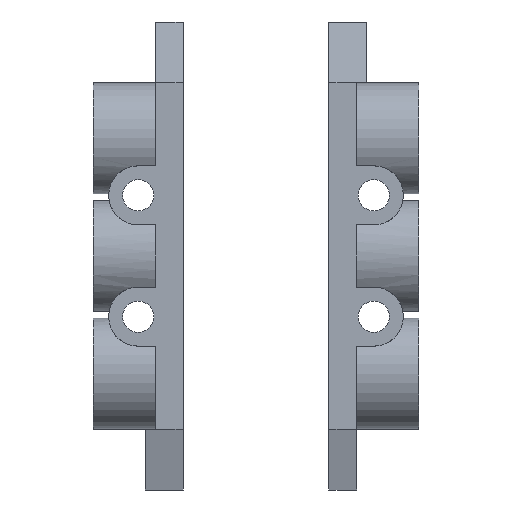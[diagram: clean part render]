
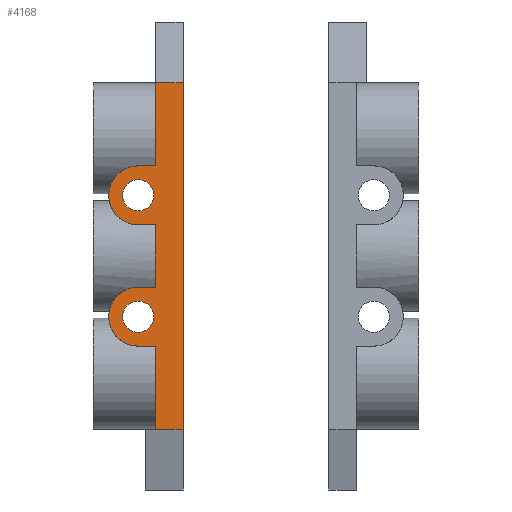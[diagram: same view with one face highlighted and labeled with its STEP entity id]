
A CAD part, front view. The second image highlights one B-rep face of the part: STEP entity #4168.
In plain terms, the highlighted planar face has unit normal (0, -1, 0).
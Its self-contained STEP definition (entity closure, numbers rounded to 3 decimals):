
#47=DIRECTION('',(1.,0.,0.));
#48=VECTOR('',#47,18.);
#49=CARTESIAN_POINT('',(-9.,-23.,0.));
#50=LINE('',#49,#48);
#93=DIRECTION('',(1.,0.,0.));
#94=VECTOR('',#93,24.);
#95=CARTESIAN_POINT('',(26.,-23.,0.));
#96=LINE('',#95,#94);
#140=DIRECTION('',(1.,0.,0.));
#141=VECTOR('',#140,24.);
#142=CARTESIAN_POINT('',(-50.,-23.,0.));
#143=LINE('',#142,#141);
#662=DIRECTION('',(1.,0.,0.));
#663=VECTOR('',#662,100.);
#664=CARTESIAN_POINT('',(-50.,-23.,-8.));
#665=LINE('',#664,#663);
#858=DIRECTION('',(0.,0.,1.));
#859=VECTOR('',#858,5.);
#860=CARTESIAN_POINT('',(9.,-23.,0.));
#861=LINE('',#860,#859);
#862=CARTESIAN_POINT('',(17.5,-23.,5.));
#863=DIRECTION('',(0.,1.,0.));
#864=DIRECTION('',(-1.,0.,0.));
#865=AXIS2_PLACEMENT_3D('',#862,#863,#864);
#867=DIRECTION('',(0.,0.,-1.));
#868=VECTOR('',#867,5.);
#869=CARTESIAN_POINT('',(26.,-23.,5.));
#870=LINE('',#869,#868);
#871=DIRECTION('',(0.,0.,-1.));
#872=VECTOR('',#871,8.);
#873=CARTESIAN_POINT('',(-50.,-23.,0.));
#874=LINE('',#873,#872);
#875=DIRECTION('',(0.,0.,1.));
#876=VECTOR('',#875,5.);
#877=CARTESIAN_POINT('',(-26.,-23.,0.));
#878=LINE('',#877,#876);
#879=CARTESIAN_POINT('',(-17.5,-23.,5.));
#880=DIRECTION('',(0.,1.,0.));
#881=DIRECTION('',(-1.,0.,0.));
#882=AXIS2_PLACEMENT_3D('',#879,#880,#881);
#884=DIRECTION('',(0.,0.,-1.));
#885=VECTOR('',#884,5.);
#886=CARTESIAN_POINT('',(-9.,-23.,5.));
#887=LINE('',#886,#885);
#888=CARTESIAN_POINT('',(17.5,-23.,5.));
#889=DIRECTION('',(0.,-1.,0.));
#890=DIRECTION('',(1.,0.,0.));
#891=AXIS2_PLACEMENT_3D('',#888,#889,#890);
#893=CARTESIAN_POINT('',(17.5,-23.,5.));
#894=DIRECTION('',(0.,-1.,0.));
#895=DIRECTION('',(-1.,0.,0.));
#896=AXIS2_PLACEMENT_3D('',#893,#894,#895);
#898=CARTESIAN_POINT('',(-17.5,-23.,5.));
#899=DIRECTION('',(0.,-1.,0.));
#900=DIRECTION('',(1.,0.,0.));
#901=AXIS2_PLACEMENT_3D('',#898,#899,#900);
#903=CARTESIAN_POINT('',(-17.5,-23.,5.));
#904=DIRECTION('',(0.,-1.,0.));
#905=DIRECTION('',(-1.,0.,0.));
#906=AXIS2_PLACEMENT_3D('',#903,#904,#905);
#1454=DIRECTION('',(0.,0.,-1.));
#1455=VECTOR('',#1454,8.);
#1456=CARTESIAN_POINT('',(50.,-23.,0.));
#1457=LINE('',#1456,#1455);
#2728=CARTESIAN_POINT('',(50.,-23.,0.));
#2730=VERTEX_POINT('',#2728);
#2758=CARTESIAN_POINT('',(-50.,-23.,-8.));
#2759=VERTEX_POINT('',#2758);
#2760=CARTESIAN_POINT('',(50.,-23.,-8.));
#2761=VERTEX_POINT('',#2760);
#2774=CARTESIAN_POINT('',(-50.,-23.,0.));
#2775=VERTEX_POINT('',#2774);
#2784=CARTESIAN_POINT('',(-26.,-23.,5.));
#2785=CARTESIAN_POINT('',(-9.,-23.,5.));
#2786=VERTEX_POINT('',#2784);
#2787=VERTEX_POINT('',#2785);
#2788=CARTESIAN_POINT('',(9.,-23.,5.));
#2789=CARTESIAN_POINT('',(26.,-23.,5.));
#2790=VERTEX_POINT('',#2788);
#2791=VERTEX_POINT('',#2789);
#2792=CARTESIAN_POINT('',(-26.,-23.,0.));
#2794=VERTEX_POINT('',#2792);
#2796=CARTESIAN_POINT('',(-9.,-23.,0.));
#2798=VERTEX_POINT('',#2796);
#2800=CARTESIAN_POINT('',(9.,-23.,0.));
#2802=VERTEX_POINT('',#2800);
#2804=CARTESIAN_POINT('',(26.,-23.,0.));
#2806=VERTEX_POINT('',#2804);
#2932=CARTESIAN_POINT('',(22.,-23.,5.));
#2933=CARTESIAN_POINT('',(13.,-23.,5.));
#2934=VERTEX_POINT('',#2932);
#2935=VERTEX_POINT('',#2933);
#2936=CARTESIAN_POINT('',(-13.,-23.,5.));
#2937=CARTESIAN_POINT('',(-22.,-23.,5.));
#2938=VERTEX_POINT('',#2936);
#2939=VERTEX_POINT('',#2937);
#4130=CARTESIAN_POINT('',(-50.,-23.,0.));
#4131=DIRECTION('',(0.,-1.,0.));
#4132=DIRECTION('',(1.,0.,0.));
#4133=AXIS2_PLACEMENT_3D('',#4130,#4131,#4132);
#4134=PLANE('',#4133);
#4135=ORIENTED_EDGE('',*,*,#3483,.T.);
#4137=ORIENTED_EDGE('',*,*,#4136,.T.);
#4139=ORIENTED_EDGE('',*,*,#4138,.T.);
#4141=ORIENTED_EDGE('',*,*,#4140,.T.);
#4142=ORIENTED_EDGE('',*,*,#3519,.T.);
#4144=ORIENTED_EDGE('',*,*,#4143,.T.);
#4145=ORIENTED_EDGE('',*,*,#3873,.F.);
#4146=ORIENTED_EDGE('',*,*,#4123,.F.);
#4147=ORIENTED_EDGE('',*,*,#3569,.T.);
#4149=ORIENTED_EDGE('',*,*,#4148,.T.);
#4151=ORIENTED_EDGE('',*,*,#4150,.T.);
#4153=ORIENTED_EDGE('',*,*,#4152,.T.);
#4154=EDGE_LOOP('',(#4135,#4137,#4139,#4141,#4142,#4144,#4145,#4146,#4147,#4149,
#4151,#4153));
#4155=FACE_OUTER_BOUND('',#4154,.F.);
#4157=ORIENTED_EDGE('',*,*,#4156,.T.);
#4159=ORIENTED_EDGE('',*,*,#4158,.T.);
#4160=EDGE_LOOP('',(#4157,#4159));
#4161=FACE_BOUND('',#4160,.F.);
#4163=ORIENTED_EDGE('',*,*,#4162,.T.);
#4165=ORIENTED_EDGE('',*,*,#4164,.T.);
#4166=EDGE_LOOP('',(#4163,#4165));
#4167=FACE_BOUND('',#4166,.F.);
#4168=ADVANCED_FACE('',(#4155,#4161,#4167),#4134,.T.);
#866=CIRCLE('',#865,8.5);
#883=CIRCLE('',#882,8.5);
#892=CIRCLE('',#891,4.5);
#897=CIRCLE('',#896,4.5);
#902=CIRCLE('',#901,4.5);
#907=CIRCLE('',#906,4.5);
#3483=EDGE_CURVE('',#2798,#2802,#50,.T.);
#3519=EDGE_CURVE('',#2806,#2730,#96,.T.);
#3569=EDGE_CURVE('',#2775,#2794,#143,.T.);
#3873=EDGE_CURVE('',#2759,#2761,#665,.T.);
#4123=EDGE_CURVE('',#2775,#2759,#874,.T.);
#4136=EDGE_CURVE('',#2802,#2790,#861,.T.);
#4138=EDGE_CURVE('',#2790,#2791,#866,.T.);
#4140=EDGE_CURVE('',#2791,#2806,#870,.T.);
#4143=EDGE_CURVE('',#2730,#2761,#1457,.T.);
#4148=EDGE_CURVE('',#2794,#2786,#878,.T.);
#4150=EDGE_CURVE('',#2786,#2787,#883,.T.);
#4152=EDGE_CURVE('',#2787,#2798,#887,.T.);
#4156=EDGE_CURVE('',#2934,#2935,#892,.T.);
#4158=EDGE_CURVE('',#2935,#2934,#897,.T.);
#4162=EDGE_CURVE('',#2938,#2939,#902,.T.);
#4164=EDGE_CURVE('',#2939,#2938,#907,.T.);
